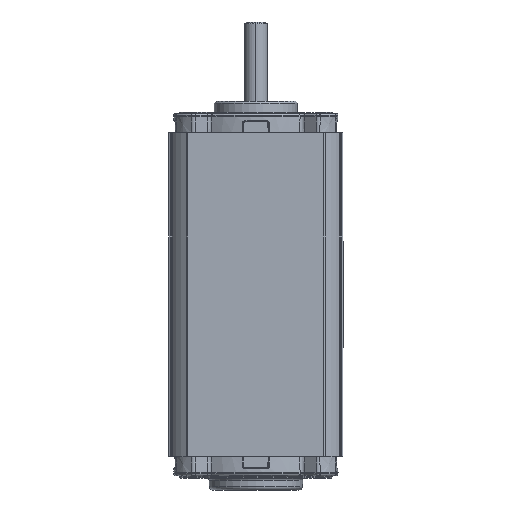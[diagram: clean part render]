
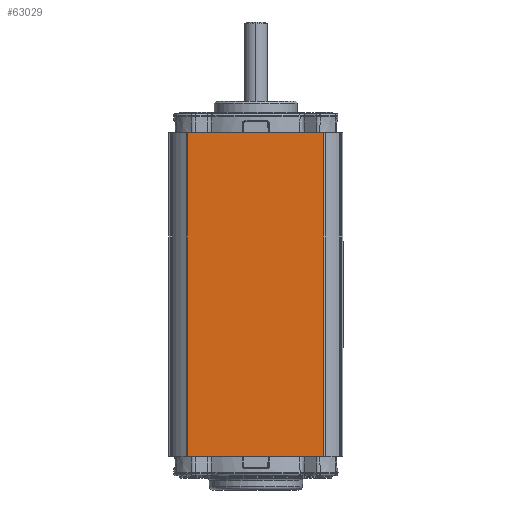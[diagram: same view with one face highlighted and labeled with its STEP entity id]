
A CAD part, front view. The second image highlights one B-rep face of the part: STEP entity #63029.
In plain terms, the highlighted planar face has unit normal (0, -1, 0).
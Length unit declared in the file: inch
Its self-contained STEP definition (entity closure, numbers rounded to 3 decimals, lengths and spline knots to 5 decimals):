
#1026 = EDGE_CURVE ( 'NONE', #25641, #59231, #16541, .T. ) ;
#1359 = AXIS2_PLACEMENT_3D ( 'NONE', #19674, #54434, #24653 ) ;
#3377 = VECTOR ( 'NONE', #20453, 39.37008 ) ;
#4386 = LINE ( 'NONE', #18356, #42319 ) ;
#5105 = VERTEX_POINT ( 'NONE', #16115 ) ;
#7910 = VECTOR ( 'NONE', #42655, 39.37008 ) ;
#8044 = CARTESIAN_POINT ( 'NONE',  ( -1.1275, -1.442, -7.34 ) ) ;
#14257 = PLANE ( 'NONE',  #1359 ) ;
#16115 = CARTESIAN_POINT ( 'NONE',  ( -1.1275, -1.442, -7.205 ) ) ;
#16541 = LINE ( 'NONE', #40195, #3377 ) ;
#16544 = ORIENTED_EDGE ( 'NONE', *, *, #27056, .F. ) ;
#18356 = CARTESIAN_POINT ( 'NONE',  ( 1.1275, -1.442, -7.34 ) ) ;
#19674 = CARTESIAN_POINT ( 'NONE',  ( -1.1475, -1.442, -7.34 ) ) ;
#20453 = DIRECTION ( 'NONE',  ( 1., 0., 0. ) ) ;
#21089 = LINE ( 'NONE', #8044, #7910 ) ;
#22912 = FACE_OUTER_BOUND ( 'NONE', #60617, .T. ) ;
#24653 = DIRECTION ( 'NONE',  ( 1., 0., 0. ) ) ;
#25641 = VERTEX_POINT ( 'NONE', #47163 ) ;
#25823 = CARTESIAN_POINT ( 'NONE',  ( 1.1275, -1.442, -1.835 ) ) ;
#26069 = LINE ( 'NONE', #30341, #64153 ) ;
#27056 = EDGE_CURVE ( 'NONE', #27418, #5105, #26069, .T. ) ;
#27418 = VERTEX_POINT ( 'NONE', #35051 ) ;
#30341 = CARTESIAN_POINT ( 'NONE',  ( 1.1275, -1.442, -7.205 ) ) ;
#33386 = ORIENTED_EDGE ( 'NONE', *, *, #53836, .T. ) ;
#35051 = CARTESIAN_POINT ( 'NONE',  ( 1.1275, -1.442, -7.205 ) ) ;
#35309 = DIRECTION ( 'NONE',  ( -1., 0., 0. ) ) ;
#40195 = CARTESIAN_POINT ( 'NONE',  ( -1.1475, -1.442, -1.835 ) ) ;
#42319 = VECTOR ( 'NONE', #48057, 39.37008 ) ;
#42655 = DIRECTION ( 'NONE',  ( 0., 0., -1. ) ) ;
#47163 = CARTESIAN_POINT ( 'NONE',  ( -1.1275, -1.442, -1.835 ) ) ;
#48057 = DIRECTION ( 'NONE',  ( 0., 0., 1. ) ) ;
#53203 = ORIENTED_EDGE ( 'NONE', *, *, #1026, .F. ) ;
#53836 = EDGE_CURVE ( 'NONE', #27418, #59231, #4386, .T. ) ;
#54434 = DIRECTION ( 'NONE',  ( 0., -1., 0. ) ) ;
#59231 = VERTEX_POINT ( 'NONE', #25823 ) ;
#59416 = EDGE_CURVE ( 'NONE', #25641, #5105, #21089, .T. ) ;
#60617 = EDGE_LOOP ( 'NONE', ( #61845, #16544, #33386, #53203 ) ) ;
#61845 = ORIENTED_EDGE ( 'NONE', *, *, #59416, .T. ) ;
#63029 = ADVANCED_FACE ( 'NONE', ( #22912 ), #14257, .T. ) ;
#64153 = VECTOR ( 'NONE', #35309, 39.37008 ) ;
